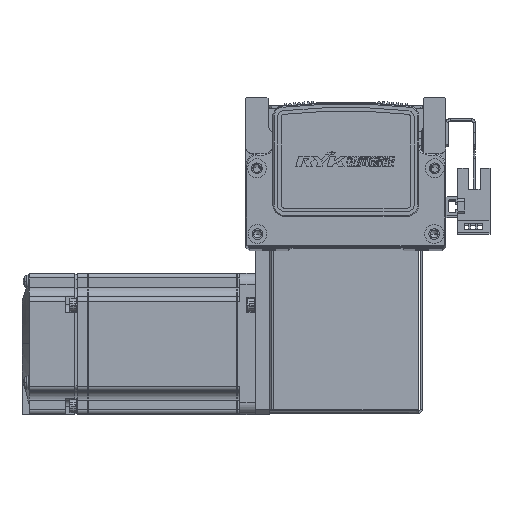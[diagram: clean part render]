
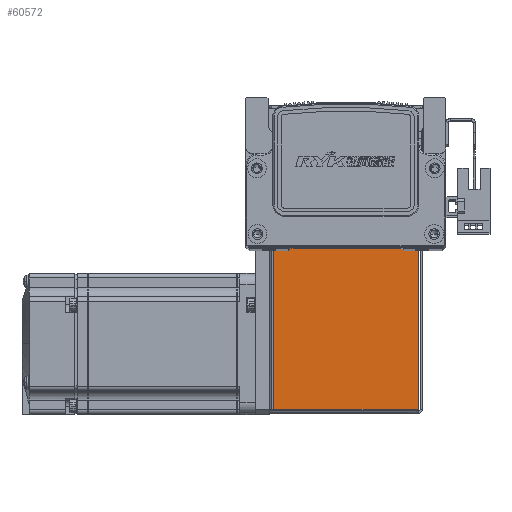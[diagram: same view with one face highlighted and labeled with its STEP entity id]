
A CAD part, top view. The second image highlights one B-rep face of the part: STEP entity #60572.
In plain terms, the highlighted planar face has unit normal (0, 0, 1) as drawn and (0, 0, -1) by its records, which use the part's own axes.
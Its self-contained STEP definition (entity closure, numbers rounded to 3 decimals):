
#5901 = LINE ( 'NONE', #48788, #5963 ) ;
#5937 = LINE ( 'NONE', #48844, #6005 ) ;
#5963 = VECTOR ( 'NONE', #48789, 1000. ) ;
#5969 = LINE ( 'NONE', #48683, #5975 ) ;
#5975 = VECTOR ( 'NONE', #48772, 1000. ) ;
#6005 = VECTOR ( 'NONE', #48892, 1000. ) ;
#6013 = LINE ( 'NONE', #48663, #6025 ) ;
#6025 = VECTOR ( 'NONE', #48599, 1000. ) ;
#13180 = VERTEX_POINT ( 'NONE', #69263 ) ;
#13191 = VERTEX_POINT ( 'NONE', #69289 ) ;
#13227 = VERTEX_POINT ( 'NONE', #69260 ) ;
#14444 = VERTEX_POINT ( 'NONE', #63707 ) ;
#15429 = CARTESIAN_POINT ( 'NONE',  ( 0., 0., -35. ) ) ;
#15430 = DIRECTION ( 'NONE',  ( 0., -1., 0. ) ) ;
#15457 = DIRECTION ( 'NONE',  ( 0., 0., 1. ) ) ;
#15471 = PLANE ( 'NONE',  #47287 ) ;
#19518 = ORIENTED_EDGE ( 'NONE', *, *, #66156, .T. ) ;
#19536 = ORIENTED_EDGE ( 'NONE', *, *, #66144, .T. ) ;
#19544 = ORIENTED_EDGE ( 'NONE', *, *, #66147, .F. ) ;
#19644 = ORIENTED_EDGE ( 'NONE', *, *, #66127, .T. ) ;
#47287 = AXIS2_PLACEMENT_3D ( 'NONE', #15429, #15457, #15430 ) ;
#48599 = DIRECTION ( 'NONE',  ( 0., -1., 0. ) ) ;
#48663 = CARTESIAN_POINT ( 'NONE',  ( 30.763, 72.5, -35. ) ) ;
#48683 = CARTESIAN_POINT ( 'NONE',  ( -30.793, 0., -35. ) ) ;
#48772 = DIRECTION ( 'NONE',  ( 0., 1., 0. ) ) ;
#48788 = CARTESIAN_POINT ( 'NONE',  ( 32.5, 0.737, -35. ) ) ;
#48789 = DIRECTION ( 'NONE',  ( 1., 0., 0. ) ) ;
#48844 = CARTESIAN_POINT ( 'NONE',  ( 0., 72.5, -35. ) ) ;
#48892 = DIRECTION ( 'NONE',  ( 1., 0., 0. ) ) ;
#60572 = ADVANCED_FACE ( 'NONE', ( #71250 ), #15471, .F. ) ;
#63707 = CARTESIAN_POINT ( 'NONE',  ( 30.763, 72.5, -35. ) ) ;
#66127 = EDGE_CURVE ( 'NONE', #14444, #13227, #6013, .T. ) ;
#66144 = EDGE_CURVE ( 'NONE', #13180, #13191, #5969, .T. ) ;
#66147 = EDGE_CURVE ( 'NONE', #13180, #13227, #5901, .T. ) ;
#66156 = EDGE_CURVE ( 'NONE', #13191, #14444, #5937, .T. ) ;
#69260 = CARTESIAN_POINT ( 'NONE',  ( 30.763, 0.737, -35. ) ) ;
#69263 = CARTESIAN_POINT ( 'NONE',  ( -30.793, 0.737, -35. ) ) ;
#69289 = CARTESIAN_POINT ( 'NONE',  ( -30.793, 72.5, -35. ) ) ;
#71250 = FACE_OUTER_BOUND ( 'NONE', #72147, .T. ) ;
#72147 = EDGE_LOOP ( 'NONE', ( #19644, #19544, #19536, #19518 ) ) ;
